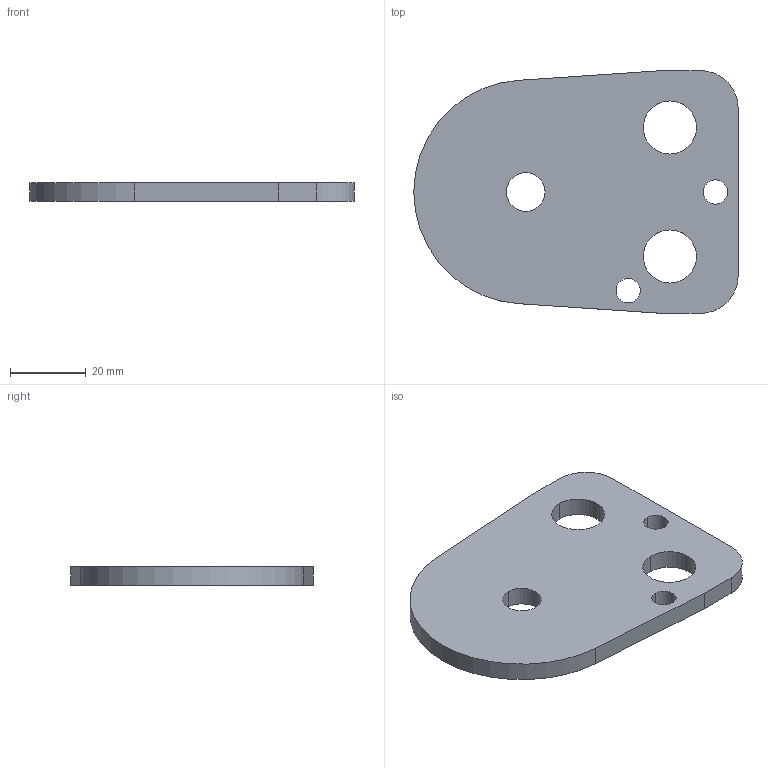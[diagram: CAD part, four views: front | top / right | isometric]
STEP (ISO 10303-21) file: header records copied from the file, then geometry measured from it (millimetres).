
FILE_DESCRIPTION(/* description */ (''),/* implementation_level */ '2;1');
FILE_NAME(/* name */ '3d_bpc45_03422_r00.stp',/* time_stamp */ '2011-01-10T14:17:08+09:00',/* author */ ('MISUMI'),/* organization */ (''),/* preprocessor_version */ 'ST-DEVELOPER v11',/* originating_system */ 'UGS - NX 5.0',/* authorisation */ '');
FILE_SCHEMA (('CONFIG_CONTROL_DESIGN'));
Length unit declared in the file: millimetre
Products named in the file (1): 3d_bpc45_03422_r00
Bounding box: 85.5 x 64 x 5 mm (x, y, z)
Volume: 21833.2 mm3; surface area: 10835.7 mm2
Topology: 1 solids, 1 shells, 20 faces, 54 edges, 36 vertices
Faces by surface type: cylinder 13, plane 7
Entity records: 750 total; most frequent: DIRECTION 122, CARTESIAN_POINT 111, ORIENTED_EDGE 108, EDGE_CURVE 54, AXIS2_PLACEMENT_3D 47, VERTEX_POINT 36, EDGE_LOOP 30, LINE 28
